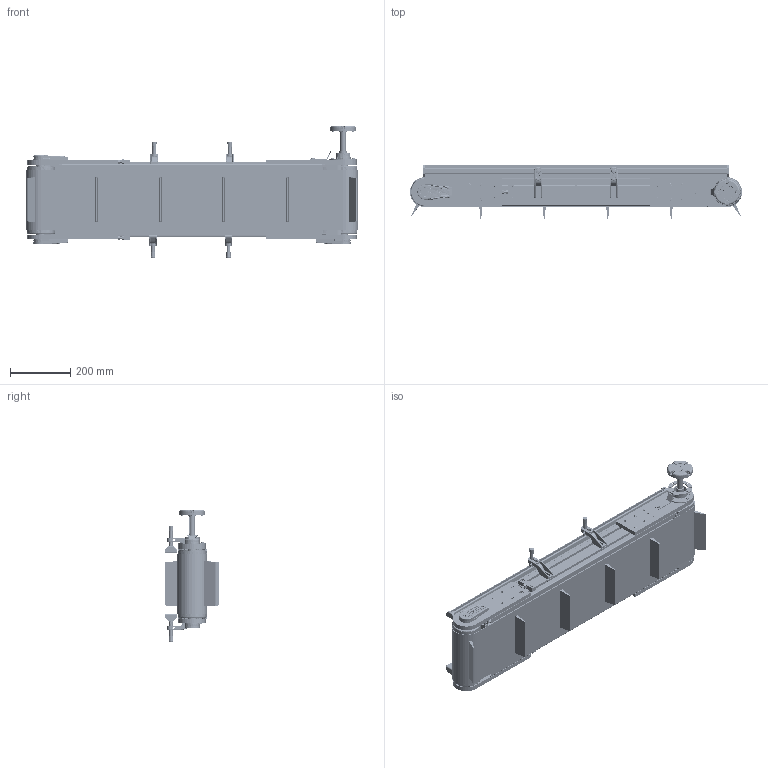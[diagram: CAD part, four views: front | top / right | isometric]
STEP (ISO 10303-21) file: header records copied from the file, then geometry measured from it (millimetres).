
FILE_DESCRIPTION (( 'STEP AP203' ), '1' );
FILE_NAME ('NASTRO_RETTILINEO_TAPPETO.step', '2026-06-02T21:11:05', ( 'Utente Windows' ), ( '' ), 'SwSTEP 2.0', 'SolidWorks 2024', '' );
FILE_SCHEMA (( 'CONFIG_CONTROL_DESIGN' ));
Length unit declared in the file: millimetre
Products named in the file (53): VITI TSEI UNI 5933_M4x12 UNI 5933; 084.803.018; TAPPETO_STANDARD; BLOCCO_TRAINO_95_STANDARD_CON TENDINASTRO E CARTER; 084.802.034_084.802.034; 084.808.002_084.808.002; NASTRO_RETTILINEO_TAPPETO; 084.802.060_Default<A macchina>; RONDELLE FASCIA LARGA UNI 6593_6.4x24 UNI 6593; 084.802.071; SPONDA_Default<A macchina>; VITE_DADO_M5X12; 084.808.012; 084.802.062; VITI TCEI UNI 5931_M4x25 UNI 5931; 084.802.068; 084.711.007; 084.302.000 DADI ALUSIC 13x13-1_084.302.004; 084.812.003; VITI TE UNI 5739_M6x16 UNI 5739; VITE_RONDELLA_M8X20; CHIAVETTE_A 6x6x60 UNI 6604-69; 30UNI7435; CHIAVETTE_A 8x7x20 UNI 6604-69; RULLO_95_Default<A macchina>; 084.812.001; 084.802.019_084.802.019; DADI ESAGONALI NORMALI UNI 5588_M6 UNI 5588; VITI TSEI UNI 5933_M5x12 UNI 5933; BLOCCO_TRAINO_95_STANDARD_44_DX_dx; 084.711.006_PER CAVA 8 PERNO ALTO 1; 084.302.060; VITI TCEI UNI 5931_M6x12 UNI 5931; 084.803.003; VITI TE UNI 5739_M6x12 UNI 5739; 084.711.005; 084.303.001; 084.711.006_L2; 084.301.000 VITI ALUSIC_084.301.003; 084.302.000 DADI ALUSIC 13x13-1_084.302.007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
Assembly tree (119 placements, depth 4):
  NASTRO_RETTILINEO_TAPPETO
    TAPPETO_STANDARD
    TELAIO_95_STANDARD_Default<A macchina>
    LAMIERA_STANDARD
    RULLO_95_Default<A macchina>  x2
    BLOCCO_PERNO_95_44
      084.812.001
      084.810.003
      CHIAVETTE_A 6x6x60 UNI 6604-69
      CHIAVETTE_A 8x7x20 UNI 6604-69
      RONDELLE FASCIA LARGA UNI 6593_6.4x24 UNI 6593
      VITI TE UNI 5739_M6x12 UNI 5739
      30UNI7435
    BLOCCO_TRAINO_95_STANDARD_44_DX_dx
      084.808.003_084.808.003
      084.302.060  x2
      084.802.034_084.802.034
      084.301.000 VITI ALUSIC_084.301.003  x6
      VITI TCEI UNI 5931_M4x25 UNI 5931  x2
      084.802.067_Default<A macchina>
      BLOCCO_BRACCIO_CH04P_V2_VF44P V2
        084.808.012
        084.802.062
        0820ISO2342
        084.803.018
        VITI TCEI UNI 5931_M6x12 UNI 5931  x4
        VITI TE UNI 5739_M6x16 UNI 5739  x4
        084.802.060_Default<A macchina>
    BLOCCO_PERNO_95_RINVIO  x3
      084.812.003
      084.810.003
      30UNI7435
    BLOCCO_TRAINO_95_STANDARD_CON TENDINASTRO E CARTER
      084.808.002_084.808.002
      084.302.060  x2
      084.802.019_084.802.019
      084.301.000 VITI ALUSIC_084.301.003  x6
      VITI TCEI UNI 5931_M4x25 UNI 5931  x2
      084.802.071
      084.802.068
      VITI TSEI UNI 5933_M4x12 UNI 5933  x2
    BLOCCO_RINVIO_95_STANDARD_CON TENDINASTRO E CARTER  x2
      084.808.002_084.808.002
      084.803.003
      084.302.060
      084.802.019_084.802.019
      VITI TSEI UNI 5933_M4x12 UNI 5933
      084.302.000 DADI ALUSIC 13x13-1_084.302.004
      084.301.000 VITI ALUSIC_084.301.003
      084.802.071
    SPONDA_Default<A macchina>  x2
    084.711.006_PER CAVA 8 PERNO ALTO 1  x4
      084.711.006_L1
      084.711.006_L2
      084.711.007
      084.711.005
      084.711.010
      DADI ESAGONALI NORMALI UNI 5588_M6 UNI 5588
    084.712.002  x4
    VITE_RONDELLA_M8X20  x9
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Bounding box: 1099 x 179.5 x 437.43 mm (x, y, z)
Volume: 7976972.7 mm3; surface area: 5027811.5 mm2
Topology: 191 solids, 194 shells, 7803 faces, 19750 edges, 12475 vertices
Faces by surface type: plane 3656, cylinder 2130, cone 719, bspline 679, torus 515, sphere 104
Entity records: 139823 total; most frequent: CARTESIAN_POINT 43262, ORIENTED_EDGE 19388, DIRECTION 17674, EDGE_CURVE 9694, VERTEX_POINT 6207, AXIS2_PLACEMENT_3D 6148, VECTOR 5378, LINE 5378
